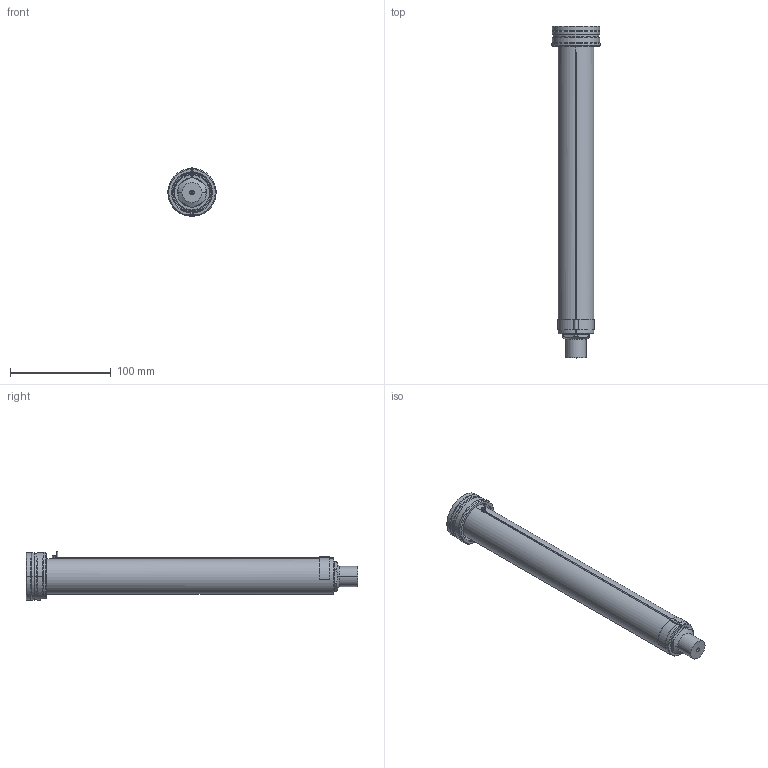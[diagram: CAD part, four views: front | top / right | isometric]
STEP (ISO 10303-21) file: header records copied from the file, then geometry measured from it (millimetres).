
FILE_DESCRIPTION((''),'2;1');
FILE_NAME('EO16_PG-FBE_STD_300_SW','2024-02-19T12:08:14',('sundharh'),(''),'CREO PARAMETRIC BY PTC INC, 2023154','CREO PARAMETRIC BY PTC INC, 2023154','');
FILE_SCHEMA(('CONFIG_CONTROL_DESIGN'));
Length unit declared in the file: millimetre
Products named in the file (1): EO16_PG-FBE_STD_300_SW
Bounding box: 47.97 x 330 x 48 mm (x, y, z)
Volume: 263209.5 mm3; surface area: 62786.7 mm2
Topology: 1 solids, 1 shells, 206 faces, 542 edges, 332 vertices
Faces by surface type: cylinder 81, plane 58, cone 43, torus 14, bspline 7, sphere 3
Entity records: 7632 total; most frequent: CARTESIAN_POINT 2462, DIRECTION 1143, ORIENTED_EDGE 1064, EDGE_CURVE 532, AXIS2_PLACEMENT_3D 476, VERTEX_POINT 332, CIRCLE 277, EDGE_LOOP 224
